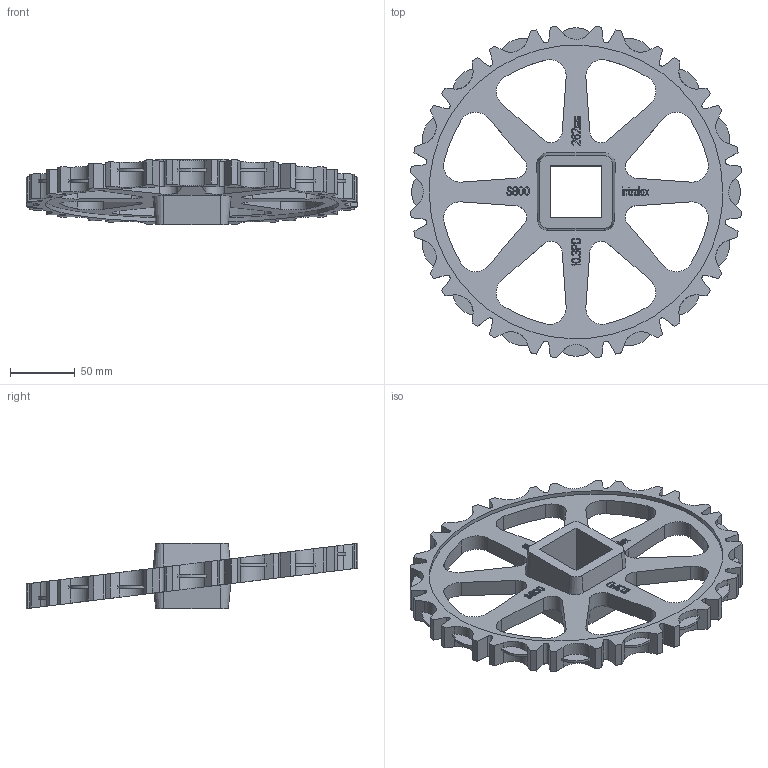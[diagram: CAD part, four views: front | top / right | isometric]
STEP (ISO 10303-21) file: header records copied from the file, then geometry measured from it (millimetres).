
FILE_DESCRIPTION((''),'2;1');
FILE_NAME('S800_ANGLEEZCLEAN_103X15_40_SQ','2008-12-12T',('jmumphre'),(''),'PRO/ENGINEER BY PARAMETRIC TECHNOLOGY CORPORATION, 2008150','PRO/ENGINEER BY PARAMETRIC TECHNOLOGY CORPORATION, 2008150','');
FILE_SCHEMA(('CONFIG_CONTROL_DESIGN'));
Length unit declared in the file: inch
Products named in the file (1): S800_ANGLEEZCLEAN_103X15_40_SQ
Bounding box: 255.51 x 255.51 x 50.29 mm (x, y, z)
Volume: 450435.7 mm3; surface area: 119486.3 mm2
Topology: 1 solids, 1 shells, 1038 faces, 2994 edges, 1996 vertices
Faces by surface type: plane 930, cylinder 100, cone 8
Entity records: 35294 total; most frequent: CARTESIAN_POINT 8124, ORIENTED_EDGE 5988, DIRECTION 4998, EDGE_CURVE 2994, VECTOR 2778, LINE 2778, VERTEX_POINT 1996, AXIS2_PLACEMENT_3D 1110
